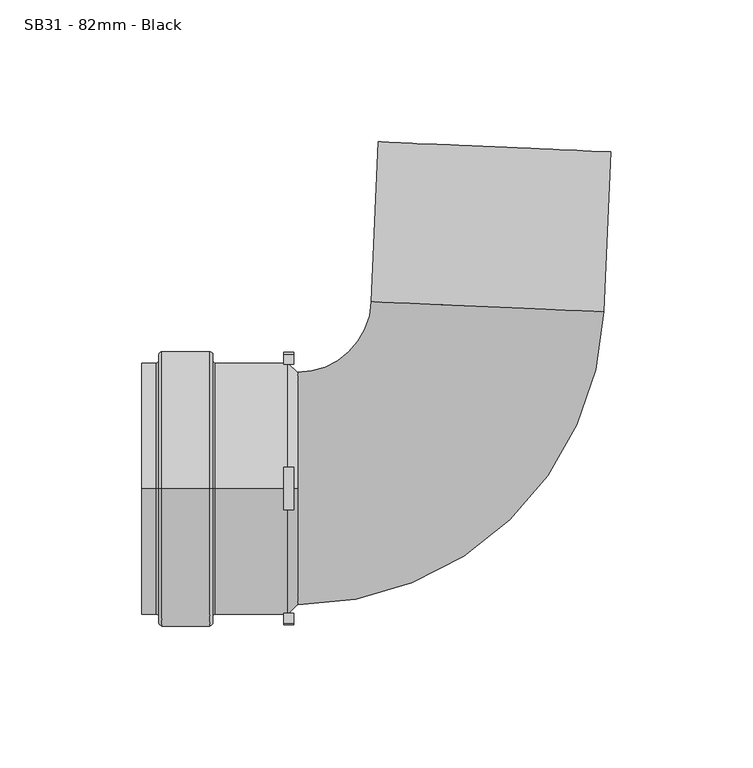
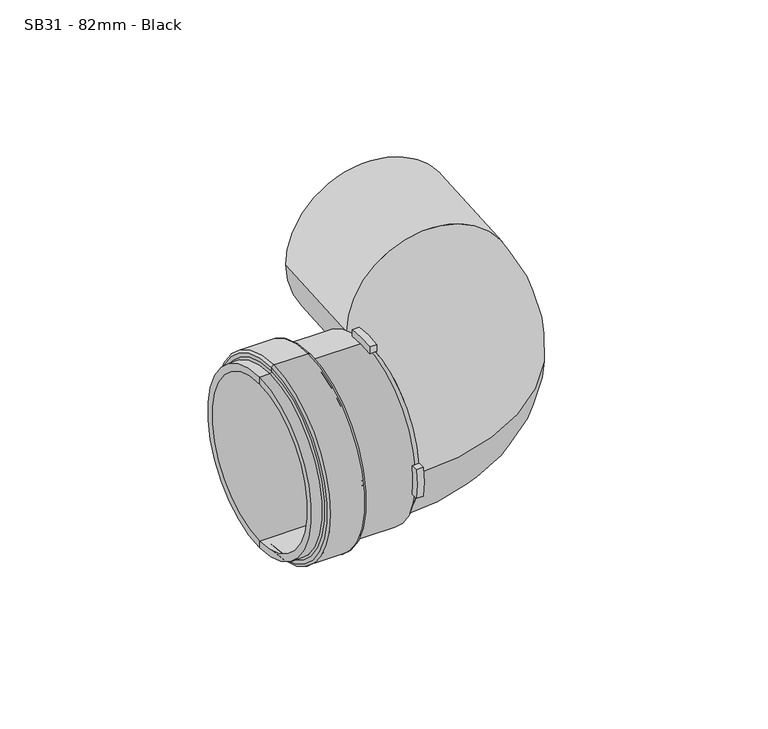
"""IFC4 building model written with IfcOpenShell, lengths in millimetres: pipe fitting geometry, MarleyPlumbingAndDrainage_PipeFitting_ShortRadiusBend87-5 : SB31 - 82mm - Black."""

import ifcopenshell
import ifcopenshell.guid

model = None  # the IFC model being written
_history = None  # IfcOwnerHistory: only IFC2X3 demands one
_inside = {}  # id of a spatial element -> (the spatial element, [elements in it])
_under = {}  # id of a project, library or spatial element -> (it, [spatial elements below it])
_declared = {}  # id of a project -> (the project, [libraries it declares])
_typed = {}  # id of a type object -> (the type object, [elements of that type])
_made_of = {}  # id of a material, layer set ... -> (it, [elements and type objects made of it])


def new_model(schema):
    """Start an empty IFC model of exactly this schema.

    Asked for "IFC4X3", IfcOpenShell would pick the latest addendum, in which some entities
    have other attributes; the version numbers below select the first issue.
    IFC2X3 requires an IfcOwnerHistory on every rooted entity: one is made here for all.
    """
    global model, _history
    if schema == "IFC4X3":
        model = ifcopenshell.file(schema_version=(4, 3, 0, 0))
    else:
        model = ifcopenshell.file(schema=schema)
    _inside.clear()
    _under.clear()
    _declared.clear()
    _typed.clear()
    _made_of.clear()
    _history = None
    if model.schema == "IFC2X3":
        org = make("IfcOrganization", Name="unknown")
        user = make(
            "IfcPersonAndOrganization",
            ThePerson=make("IfcPerson", FamilyName="unknown"),
            TheOrganization=org,
        )
        app = make(
            "IfcApplication",
            ApplicationDeveloper=org,
            Version="unknown",
            ApplicationFullName="unknown",
            ApplicationIdentifier="unknown",
        )
        _history = make(
            "IfcOwnerHistory",
            OwningUser=user,
            OwningApplication=app,
            ChangeAction="ADDED",
            CreationDate=0,
        )
    return model


def make(cls, **values):
    """One entity of the class cls with the attributes given. An attribute that is None is left unset."""
    return model.create_entity(
        cls, **{name: value for name, value in values.items() if value is not None}
    )


def rooted(cls, **values):
    """An entity with a GlobalId (a new one), such as an element, a storey or a relation."""
    return make(cls, GlobalId=ifcopenshell.guid.new(), OwnerHistory=_history, **values)


def si_unit(unit_type, name, prefix=None):
    """IfcSIUnit, for example si_unit("LENGTHUNIT", "METRE", prefix="MILLI")."""
    return make("IfcSIUnit", UnitType=unit_type, Prefix=prefix, Name=name)


def assignment(units):
    """IfcUnitAssignment: the units of a project."""
    return None if units is None else make("IfcUnitAssignment", Units=units)


def point(xyz):
    """IfcCartesianPoint."""
    return None if xyz is None else make("IfcCartesianPoint", Coordinates=xyz)


def direction(xyz):
    """IfcDirection."""
    return None if xyz is None else make("IfcDirection", DirectionRatios=xyz)


def frame(location, z_axis=None, x_axis=None):
    """IfcAxis2Placement3D, a coordinate frame: its origin and axes. An axis left out is left unset."""
    return make(
        "IfcAxis2Placement3D",
        Location=point(location),
        Axis=direction(z_axis),
        RefDirection=direction(x_axis),
    )


def frame_2d(location, x_axis=None):
    """IfcAxis2Placement2D, a coordinate frame in the plane: its origin and x axis."""
    return make(
        "IfcAxis2Placement2D", Location=point(location), RefDirection=direction(x_axis)
    )


def origin():
    """The frame at (0, 0, 0) with its axes left unset."""
    return frame((0.0, 0.0, 0.0))


def origin_2d():
    """The frame at (0, 0) in the plane with its x axis left unset."""
    return frame_2d((0.0, 0.0))


def place(relative_to, where):
    """IfcLocalPlacement: puts the frame where relative to a parent placement (None: the world)."""
    return make(
        "IfcLocalPlacement", PlacementRelTo=relative_to, RelativePlacement=where
    )


def context(
    kind, dimensions, precision=None, world=None, true_north=None, identifier=None
):
    """IfcGeometricRepresentationContext, for example the 3D "Model" context."""
    return make(
        "IfcGeometricRepresentationContext",
        ContextIdentifier=identifier,
        ContextType=kind,
        CoordinateSpaceDimension=dimensions,
        Precision=precision,
        WorldCoordinateSystem=world,
        TrueNorth=true_north,
    )


def project(units=None, contexts=None):
    """IfcProject with its units and contexts."""
    return rooted(
        "IfcProject",
        Name="project",
        RepresentationContexts=contexts,
        UnitsInContext=assignment(units),
    )


def spatial(cls, under=None, at=None, **own):
    """A site, building, storey or space (cls), placed at a placement, below another one or the project."""
    s = rooted(cls, ObjectPlacement=at, **own)
    if under is not None:
        _under.setdefault(under.id(), (under, []))[1].append(s)
    return s


def polyline(points):
    """IfcPolyline through the points."""
    return make("IfcPolyline", Points=[point(p) for p in points])


def circle_curve(where, radius):
    """IfcCircle in the frame where."""
    return make("IfcCircle", Position=where, Radius=radius)


def ellipse_curve(where, semi_axis1, semi_axis2):
    """IfcEllipse in the frame where."""
    return make(
        "IfcEllipse", Position=where, SemiAxis1=semi_axis1, SemiAxis2=semi_axis2
    )


def trimmed(basis, trim1, trim2, sense, master):
    """IfcTrimmedCurve: the piece of a basis curve between two trims."""
    return make(
        "IfcTrimmedCurve",
        BasisCurve=basis,
        Trim1=trim1,
        Trim2=trim2,
        SenseAgreement=sense,
        MasterRepresentation=master,
    )


def segment(curve, same_sense, transition):
    """IfcCompositeCurveSegment."""
    return make(
        "IfcCompositeCurveSegment",
        Transition=transition,
        SameSense=same_sense,
        ParentCurve=curve,
    )


def composite_curve(segments, self_intersect=None):
    """IfcCompositeCurve: segments joined end to end."""
    return make("IfcCompositeCurve", Segments=segments, SelfIntersect=self_intersect)


def outline(outer, holes=None, kind="AREA"):
    """IfcArbitraryClosedProfileDef: a profile drawn as a closed curve; with holes, ...WithVoids."""
    if holes is None:
        return make("IfcArbitraryClosedProfileDef", ProfileType=kind, OuterCurve=outer)
    return make(
        "IfcArbitraryProfileDefWithVoids",
        ProfileType=kind,
        OuterCurve=outer,
        InnerCurves=holes,
    )


def extrude(swept, where, along, depth):
    """IfcExtrudedAreaSolid: the profile swept, set in the frame where, extruded along a direction by depth."""
    return make(
        "IfcExtrudedAreaSolid",
        SweptArea=swept,
        Position=where,
        ExtrudedDirection=direction(along),
        Depth=depth,
    )


def shape(context_of_items, identifier, shape_type, items):
    """IfcShapeRepresentation: the items that make up one representation, for example the "Body"."""
    return make(
        "IfcShapeRepresentation",
        ContextOfItems=context_of_items,
        RepresentationIdentifier=identifier,
        RepresentationType=shape_type,
        Items=items,
    )


def source(mapping_origin, context_of_items, identifier, shape_type, items):
    """IfcRepresentationMap: a shape defined once, which mapped items show again and again."""
    return make(
        "IfcRepresentationMap",
        MappingOrigin=mapping_origin,
        MappedRepresentation=shape(context_of_items, identifier, shape_type, items),
    )


def transform(
    local_origin,
    x_axis=None,
    y_axis=None,
    z_axis=None,
    scale=None,
    scale2=None,
    scale3=None,
    uniform=True,
):
    """IfcCartesianTransformationOperator3D, or its non-uniform kind. x_axis, y_axis, z_axis: its Axis1, 2, 3."""
    if uniform:
        return make(
            "IfcCartesianTransformationOperator3D",
            Axis1=direction(x_axis),
            Axis2=direction(y_axis),
            LocalOrigin=point(local_origin),
            Scale=scale,
            Axis3=direction(z_axis),
        )
    return make(
        "IfcCartesianTransformationOperator3DnonUniform",
        Axis1=direction(x_axis),
        Axis2=direction(y_axis),
        LocalOrigin=point(local_origin),
        Scale=scale,
        Axis3=direction(z_axis),
        Scale2=scale2,
        Scale3=scale3,
    )


def mapped(mapping_source, mapping_target):
    """IfcMappedItem: shows the shape of a source again, moved by a transform."""
    return make(
        "IfcMappedItem", MappingSource=mapping_source, MappingTarget=mapping_target
    )


def made_of(thing, what):
    """Note that an element or type object is made of a material, layer set ...; save() writes the relation."""
    if what is not None:
        _made_of.setdefault(what.id(), (what, []))[1].append(thing)
    return thing


def element(
    cls,
    number,
    at=None,
    inside=None,
    cuts=None,
    type_object=None,
    material=None,
    context=None,
    identifier="Body",
    shape_type=None,
    held_by="IfcProductDefinitionShape",
    body=None,
    shapes=None,
    **own,
):
    """One element of the class cls, such as IfcWall. Its Tag is "e" and its number.

    at: its placement. inside: the storey or other place that contains it. cuts: it is an
    opening in that element (IfcRelVoidsElement). A single representation is given by context,
    identifier, shape_type and body (its items); several are given by shapes. held_by: the class
    of the entity that holds the representations. save() writes the other relations.
    """
    e = rooted(cls, Tag="e%d" % number, ObjectPlacement=at, **own)
    if body is not None:
        shapes = [shape(context, identifier, shape_type, body)]
    if shapes is not None:
        e.Representation = make(held_by, Representations=shapes)
    if inside is not None:
        _inside.setdefault(inside.id(), (inside, []))[1].append(e)
    if cuts is not None:
        rooted(
            "IfcRelVoidsElement", RelatingBuildingElement=cuts, RelatedOpeningElement=e
        )
    if type_object is not None:
        _typed.setdefault(type_object.id(), (type_object, []))[1].append(e)
    return made_of(e, material)


def aggregate(whole, parts):
    """IfcRelAggregates: a whole, such as a stair, and the parts it consists of."""
    return rooted("IfcRelAggregates", RelatingObject=whole, RelatedObjects=parts)


def save(model, path):
    """Write the relations noted so far, then the file.

    IfcRelAggregates (storeys below a building ...), IfcRelContainedInSpatialStructure (elements
    in a storey), IfcRelDefinesByType, IfcRelAssociatesMaterial and IfcRelDeclares: one each for
    every whole, place, type object, material and project.
    """
    for whole, parts in _under.values():
        aggregate(whole, parts)
    for where, things in _inside.values():
        rooted(
            "IfcRelContainedInSpatialStructure",
            RelatedElements=things,
            RelatingStructure=where,
        )
    for kind, things in _typed.values():
        rooted("IfcRelDefinesByType", RelatedObjects=things, RelatingType=kind)
    for what, things in _made_of.values():
        rooted("IfcRelAssociatesMaterial", RelatedObjects=things, RelatingMaterial=what)
    for by, libraries in _declared.values():
        rooted("IfcRelDeclares", RelatingContext=by, RelatedDefinitions=libraries)
    model.write(path)


def plane_surface(at):
    """IfcPlane: the flat surface through the origin of the frame at, square to its z axis."""
    return make("IfcPlane", Position=at)


def cylinder_surface(at, radius):
    """IfcCylindricalSurface: all points at the distance radius from the z axis of the frame at."""
    return make("IfcCylindricalSurface", Position=at, Radius=radius)


def revolved_surface(curve, axis_point, axis_direction):
    """IfcSurfaceOfRevolution: the curve turned about the line through axis_point along axis_direction."""
    return make(
        "IfcSurfaceOfRevolution",
        SweptCurve=make("IfcArbitraryOpenProfileDef", ProfileType="CURVE", Curve=curve),
        AxisPosition=make("IfcAxis1Placement", Location=point(axis_point), Axis=direction(axis_direction)),
    )


def advanced_brep(points, edges, surfaces, faces):
    """IfcAdvancedBrep: a solid bounded by faces that lie on surfaces and meet in shared edges.

    An edge is (start, end): straight between two places in points (the first is 0);
    or (start, end, curve); or (start, end, curve, False) where it runs against its curve.
    A face is (place in surfaces, loops), or (place, loops, False) where it looks against
    its surface's normal. A loop lists edges by number (the first is 1), with a minus sign
    where the edge is run from its end to its start. The first loop is the outer one.
    """
    corners = [point(p) for p in points]
    vertices = [make("IfcVertexPoint", VertexGeometry=c) for c in corners]
    made = []
    for start, end, *more in edges:
        made.append(
            make(
                "IfcEdgeCurve",
                EdgeStart=vertices[start],
                EdgeEnd=vertices[end],
                EdgeGeometry=more[0] if more else make("IfcPolyline", Points=[corners[start], corners[end]]),
                SameSense=more[1] if len(more) > 1 else True,
            )
        )
    hull = []
    for where, loops, *sense in faces:
        bounds = []
        for j, loop in enumerate(loops):
            ring = [make("IfcOrientedEdge", EdgeElement=made[abs(k) - 1], Orientation=k > 0) for k in loop]
            bounds.append(
                make(
                    "IfcFaceOuterBound" if j == 0 else "IfcFaceBound",
                    Bound=make("IfcEdgeLoop", EdgeList=ring),
                    Orientation=True,
                )
            )
        hull.append(make("IfcAdvancedFace", Bounds=bounds, FaceSurface=surfaces[where], SameSense=sense[0] if sense else True))
    return make("IfcAdvancedBrep", Outer=make("IfcClosedShell", CfsFaces=hull))


def sb31_82mm_black_072e4290(model_context):
    return source(origin(), model_context, "Body", "SolidModel", [
        extrude(outline(composite_curve([segment(trimmed(circle_curve(origin_2d(), 44.5), [point((-7.5, -43.8634244))], [point((7.5, -43.8634244))], True, "CARTESIAN"), True, "CONTINUOUS"), segment(polyline([(7.5, -43.8634244), (7.5, -47.4104419)]), True, "CONTINUOUS"), segment(trimmed(circle_curve(origin_2d(), 48.0), [point((7.5, -47.4104419))], [point((-7.5, -47.4104419))], False, "CARTESIAN"), True, "CONTINUOUS"), segment(polyline([(-7.5, -47.4104419), (-7.5, -43.8634244)]), True, "CONTINUOUS")], self_intersect=False)), frame((-83.9053348, 0.0, 0.0), z_axis=(1.0, 0.0, 0.0), x_axis=(0.0, 1.0, 0.0)), (0.0, 0.0, 1.0), 3.5),
        extrude(outline(composite_curve([segment(trimmed(circle_curve(origin_2d(), 44.5), [point((7.5, 43.8634244))], [point((-7.5, 43.8634244))], True, "CARTESIAN"), True, "CONTINUOUS"), segment(polyline([(-7.5, 43.8634244), (-7.5, 47.4104419)]), True, "CONTINUOUS"), segment(trimmed(circle_curve(origin_2d(), 48.0), [point((-7.5, 47.4104419))], [point((7.5, 47.4104419))], False, "CARTESIAN"), True, "CONTINUOUS"), segment(polyline([(7.5, 47.4104419), (7.5, 43.8634244)]), True, "CONTINUOUS")], self_intersect=False)), frame((-83.9053348, 0.0, 0.0), z_axis=(1.0, 0.0, 0.0), x_axis=(0.0, 1.0, 0.0)), (0.0, 0.0, 1.0), 3.5),
        extrude(outline(composite_curve([segment(trimmed(circle_curve(origin_2d(), 44.5), [point((-43.8634244, 7.5))], [point((-43.8634244, -7.5))], True, "CARTESIAN"), True, "CONTINUOUS"), segment(polyline([(-43.8634244, -7.5), (-47.4104419, -7.5)]), True, "CONTINUOUS"), segment(trimmed(circle_curve(origin_2d(), 48.0), [point((-47.4104419, -7.5))], [point((-47.4104419, 7.5))], False, "CARTESIAN"), True, "CONTINUOUS"), segment(polyline([(-47.4104419, 7.5), (-43.8634244, 7.5)]), True, "CONTINUOUS")], self_intersect=False)), frame((-83.9053348, 0.0, 0.0), z_axis=(1.0, 0.0, 0.0), x_axis=(0.0, 1.0, 0.0)), (0.0, 0.0, 1.0), 3.5),
        extrude(outline(composite_curve([segment(trimmed(circle_curve(origin_2d(), 44.5), [point((43.8634244, -7.5))], [point((43.8634244, 7.5))], True, "CARTESIAN"), True, "CONTINUOUS"), segment(polyline([(43.8634244, 7.5), (47.4104419, 7.5)]), True, "CONTINUOUS"), segment(trimmed(circle_curve(origin_2d(), 48.0), [point((47.4104419, 7.5))], [point((47.4104419, -7.5))], False, "CARTESIAN"), True, "CONTINUOUS"), segment(polyline([(47.4104419, -7.5), (43.8634244, -7.5)]), True, "CONTINUOUS")], self_intersect=False)), frame((-83.9053348, 0.0, 0.0), z_axis=(1.0, 0.0, 0.0), x_axis=(0.0, 1.0, 0.0)), (0.0, 0.0, 1.0), 3.5),
        advanced_brep(
        [(-133.9053348, 0.0, 44.5), (-133.9053348, 0.0, -44.5), (-128.9118319, 0.0, -44.5), (-128.9118319, 0.0, 44.5), (-133.9053348, 0.0, 41.0), (-133.9053348, 0.0, -41.0), (-82.4053348, 0.0, 41.0), (-82.4053348, 0.0, -41.0), (-82.4053348, 0.0, 0.0), (-82.4053348, 0.0, 44.5), (-82.4053348, 0.0, -44.5), (-78.9053348, 0.0, -41.0), (-78.9053348, 0.0, 41.0), (-107.9310832, 0.0, 44.5), (-107.9310832, 0.0, -44.5), (-108.9053348, 0.0, 45.4742516), (-108.9053348, 0.0, -45.4742516), (-108.9053348, 0.0, 47.5187521), (-108.9053348, 0.0, -47.5187521), (-109.8865827, 0.0, 48.5), (-109.8865827, 0.0, -48.5), (-126.8614035, 0.0, 48.5), (-126.8614035, 0.0, -48.5), (-127.9053348, 0.0, 47.4560687), (-127.9053348, 0.0, -47.4560687), (-127.9053348, 0.0, 45.5064971), (-127.9053348, 0.0, -45.5064971), (-78.9053348, 0.0, 0.0)],
        [
            (0, 1, circle_curve(frame((-133.9053348, 0.0, 0.0), z_axis=(1.0, 0.0, 0.0), x_axis=(0.0, 0.0, -1.0)), 44.5)),
            (1, 2),
            (2, 3, circle_curve(frame((-128.9118319, 0.0, 0.0), z_axis=(-1.0, 0.0, 0.0), x_axis=(0.0, 0.0, -1.0)), 44.5)),
            (3, 0),
            (1, 0, circle_curve(frame((-133.9053348, 0.0, 0.0), z_axis=(1.0, 0.0, 0.0), x_axis=(0.0, 0.0, -1.0)), 44.5)),
            (3, 2, circle_curve(frame((-128.9118319, 0.0, 0.0), z_axis=(-1.0, 0.0, 0.0), x_axis=(0.0, 0.0, -1.0)), 44.5)),
            (4, 5, circle_curve(frame((-133.9053348, 0.0, 0.0), z_axis=(1.0, 0.0, 0.0), x_axis=(0.0, 0.0, -1.0)), 41.0)),
            (5, 1),
            (0, 4),
            (5, 4, circle_curve(frame((-133.9053348, 0.0, 0.0), z_axis=(1.0, 0.0, 0.0), x_axis=(0.0, 0.0, -1.0)), 41.0)),
            (6, 7, circle_curve(frame((-82.4053348, 0.0, 0.0), z_axis=(1.0, 0.0, 0.0), x_axis=(0.0, 0.0, -1.0)), 41.0)),
            (7, 5),
            (4, 6),
            (7, 6, circle_curve(frame((-82.4053348, 0.0, 0.0), z_axis=(1.0, 0.0, 0.0), x_axis=(0.0, 0.0, -1.0)), 41.0)),
            (8, 7),
            (6, 8),
            (9, 10, circle_curve(frame((-82.4053348, 0.0, 0.0), z_axis=(1.0, 0.0, 0.0), x_axis=(0.0, 0.0, -1.0)), 44.5)),
            (10, 11),
            (11, 12, circle_curve(frame((-78.9053348, 0.0, 0.0), z_axis=(-1.0, 0.0, 0.0), x_axis=(0.0, 0.0, -1.0)), 41.0)),
            (12, 9),
            (10, 9, circle_curve(frame((-82.4053348, 0.0, 0.0), z_axis=(1.0, 0.0, 0.0), x_axis=(0.0, 0.0, -1.0)), 44.5)),
            (12, 11, circle_curve(frame((-78.9053348, 0.0, 0.0), z_axis=(-1.0, 0.0, 0.0), x_axis=(0.0, 0.0, -1.0)), 41.0)),
            (13, 14, circle_curve(frame((-107.9310832, 0.0, 0.0), z_axis=(1.0, 0.0, 0.0), x_axis=(0.0, 0.0, -1.0)), 44.5)),
            (14, 10),
            (9, 13),
            (14, 13, circle_curve(frame((-107.9310832, 0.0, 0.0), z_axis=(1.0, 0.0, 0.0), x_axis=(0.0, 0.0, -1.0)), 44.5)),
            (15, 16, circle_curve(frame((-108.9053348, 0.0, 0.0), z_axis=(1.0, 0.0, 0.0), x_axis=(0.0, 0.0, -1.0)), 45.4742516)),
            (16, 14, circle_curve(frame((-107.9310832, 0.0, -45.4742516), z_axis=(0.0, 1.0, 0.0), x_axis=(1.0, 0.0, 0.0)), 0.9742516)),
            (13, 15, circle_curve(frame((-107.9310832, 0.0, 45.4742516), z_axis=(0.0, 1.0, 0.0), x_axis=(1.0, 0.0, 0.0)), 0.9742516)),
            (16, 15, circle_curve(frame((-108.9053348, 0.0, 0.0), z_axis=(1.0, 0.0, 0.0), x_axis=(0.0, 0.0, -1.0)), 45.4742516)),
            (17, 18, circle_curve(frame((-108.9053348, 0.0, 0.0), z_axis=(1.0, 0.0, 0.0), x_axis=(0.0, 0.0, -1.0)), 47.5187521)),
            (18, 16),
            (15, 17),
            (18, 17, circle_curve(frame((-108.9053348, 0.0, 0.0), z_axis=(1.0, 0.0, 0.0), x_axis=(0.0, 0.0, -1.0)), 47.5187521)),
            (19, 20, circle_curve(frame((-109.8865827, 0.0, 0.0), z_axis=(1.0, 0.0, 0.0), x_axis=(0.0, 0.0, -1.0)), 48.5)),
            (20, 18, circle_curve(frame((-109.8865827, 0.0, -47.5187521), z_axis=(0.0, -1.0, 0.0), x_axis=(1.0, 0.0, 0.0)), 0.9812479)),
            (17, 19, circle_curve(frame((-109.8865827, 0.0, 47.5187521), z_axis=(0.0, -1.0, 0.0), x_axis=(1.0, 0.0, 0.0)), 0.9812479)),
            (20, 19, circle_curve(frame((-109.8865827, 0.0, 0.0), z_axis=(1.0, 0.0, 0.0), x_axis=(0.0, 0.0, -1.0)), 48.5)),
            (21, 22, circle_curve(frame((-126.8614035, 0.0, 0.0), z_axis=(1.0, 0.0, 0.0), x_axis=(0.0, 0.0, -1.0)), 48.5)),
            (22, 20),
            (19, 21),
            (22, 21, circle_curve(frame((-126.8614035, 0.0, 0.0), z_axis=(1.0, 0.0, 0.0), x_axis=(0.0, 0.0, -1.0)), 48.5)),
            (23, 24, circle_curve(frame((-127.9053348, 0.0, 0.0), z_axis=(1.0, 0.0, 0.0), x_axis=(0.0, 0.0, -1.0)), 47.4560687)),
            (24, 22, circle_curve(frame((-126.8614035, 0.0, -47.4560687), z_axis=(0.0, -1.0, 0.0), x_axis=(1.0, 0.0, 0.0)), 1.0439313)),
            (21, 23, circle_curve(frame((-126.8614035, 0.0, 47.4560687), z_axis=(0.0, -1.0, 0.0), x_axis=(1.0, 0.0, 0.0)), 1.0439313)),
            (24, 23, circle_curve(frame((-127.9053348, 0.0, 0.0), z_axis=(1.0, 0.0, 0.0), x_axis=(0.0, 0.0, -1.0)), 47.4560687)),
            (25, 26, circle_curve(frame((-127.9053348, 0.0, 0.0), z_axis=(1.0, 0.0, 0.0), x_axis=(0.0, 0.0, -1.0)), 45.5064971)),
            (26, 24),
            (23, 25),
            (26, 25, circle_curve(frame((-127.9053348, 0.0, 0.0), z_axis=(1.0, 0.0, 0.0), x_axis=(0.0, 0.0, -1.0)), 45.5064971)),
            (2, 26, circle_curve(frame((-128.9118319, 0.0, -45.5064971), z_axis=(0.0, 1.0, 0.0), x_axis=(1.0, 0.0, 0.0)), 1.0064971)),
            (25, 3, circle_curve(frame((-128.9118319, 0.0, 45.5064971), z_axis=(0.0, 1.0, 0.0), x_axis=(1.0, 0.0, 0.0)), 1.0064971)),
            (11, 27),
            (27, 12),
        ],
        [
            cylinder_surface(frame((-173.9053348, 0.0, 0.0), z_axis=(-1.0, 0.0, 0.0), x_axis=(0.0, 0.0, -1.0)), 44.5),
            plane_surface(frame((-133.9053348, 0.0, 0.0), z_axis=(-1.0, 0.0, 0.0), x_axis=(0.0, 0.0, -1.0))),
            revolved_surface(polyline([(-133.9053348, 0.0, -41.0), (-82.4053348, 0.0, -41.0)]), (-173.9053348, 0.0, 0.0), (-1.0, 0.0, 0.0)),
            plane_surface(frame((-82.4053348, 0.0, 0.0), z_axis=(-1.0, 0.0, 0.0), x_axis=(0.0, 0.0, -1.0))),
            revolved_surface(polyline([(-78.9053348, 0.0, -41.0), (-82.4053348, 0.0, -44.5)]), (-173.9053348, 0.0, 0.0), (-1.0, 0.0, 0.0)),
            revolved_surface(trimmed(ellipse_curve(frame((-107.9310832, 0.0, -45.4742516), z_axis=(0.0, -1.0, 0.0), x_axis=(1.0, 0.0, 0.0)), 0.9742516, 0.9742516), [point((-107.9310832, 0.0, -44.5))], [point((-108.9053348, 0.0, -45.4742516))], True, "CARTESIAN"), (-173.9053348, 0.0, 0.0), (-1.0, 0.0, 0.0)),
            plane_surface(frame((-108.9053348, 0.0, 0.0), z_axis=(1.0, 0.0, 0.0), x_axis=(0.0, 0.0, -1.0))),
            revolved_surface(trimmed(ellipse_curve(frame((-109.8865827, 0.0, -47.5187521), z_axis=(0.0, 1.0, 0.0), x_axis=(1.0, 0.0, 0.0)), 0.9812479, 0.9812479), [point((-108.9053348, 0.0, -47.5187521))], [point((-109.8865827, 0.0, -48.5))], True, "CARTESIAN"), (-173.9053348, 0.0, 0.0), (-1.0, 0.0, 0.0)),
            cylinder_surface(frame((-173.9053348, 0.0, 0.0), z_axis=(-1.0, 0.0, 0.0), x_axis=(0.0, 0.0, -1.0)), 48.5),
            revolved_surface(trimmed(ellipse_curve(frame((-126.8614035, 0.0, -47.4560687), z_axis=(0.0, 1.0, 0.0), x_axis=(1.0, 0.0, 0.0)), 1.0439313, 1.0439313), [point((-126.8614035, 0.0, -48.5))], [point((-127.9053348, 0.0, -47.4560687))], True, "CARTESIAN"), (-173.9053348, 0.0, 0.0), (-1.0, 0.0, 0.0)),
            plane_surface(frame((-127.9053348, 0.0, 0.0), z_axis=(-1.0, 0.0, 0.0), x_axis=(0.0, 0.0, -1.0))),
            revolved_surface(trimmed(ellipse_curve(frame((-128.9118319, 0.0, -45.5064971), z_axis=(0.0, -1.0, 0.0), x_axis=(1.0, 0.0, 0.0)), 1.0064971, 1.0064971), [point((-127.9053348, 0.0, -45.5064971))], [point((-128.9118319, 0.0, -44.5))], True, "CARTESIAN"), (-173.9053348, 0.0, 0.0), (-1.0, 0.0, 0.0)),
            plane_surface(frame((-78.9053348, 0.0, 0.0), z_axis=(1.0, 0.0, 0.0), x_axis=(0.0, 0.0, -1.0))),
        ],
        [
            (0, [[1, 2, 3, 4]]),
            (0, [[5, -4, 6, -2]]),
            (1, [[7, 8, -1, 9]]),
            (1, [[10, -9, -5, -8]]),
            (2, [[11, 12, -7, 13]]),
            (2, [[14, -13, -10, -12]]),
            (3, [[15, -11, 16]]),
            (3, [[-16, -14, -15]]),
            (4, [[17, 18, 19, 20]]),
            (4, [[21, -20, 22, -18]]),
            (0, [[23, 24, -17, 25]]),
            (0, [[26, -25, -21, -24]]),
            (5, [[27, 28, -23, 29]]),
            (5, [[30, -29, -26, -28]]),
            (6, [[31, 32, -27, 33]]),
            (6, [[34, -33, -30, -32]]),
            (7, [[35, 36, -31, 37]]),
            (7, [[38, -37, -34, -36]]),
            (8, [[39, 40, -35, 41]]),
            (8, [[42, -41, -38, -40]]),
            (9, [[43, 44, -39, 45]]),
            (9, [[46, -45, -42, -44]]),
            (10, [[47, 48, -43, 49]]),
            (10, [[50, -49, -46, -48]]),
            (11, [[-3, 51, -47, 52]]),
            (11, [[-6, -52, -50, -51]]),
            (12, [[-19, 53, 54]]),
            (12, [[-22, -54, -53]]),
        ],
    ),
        advanced_brep(
        [(-78.9053348, -41.0, 0.0), (-78.9053348, 41.0, 0.0), (-52.930081, 65.8658959, 0.0), (28.9918731, 62.2891062, 0.0), (31.4540229, 118.6816064, 0.0), (-50.4679313, 122.2583961, 0.0)],
        [
            (0, 1, circle_curve(frame((-78.9053348, 0.0, 0.0), z_axis=(-1.0, 0.0, 0.0), x_axis=(0.0, 1.0, 0.0)), 41.0)),
            (1, 0, circle_curve(frame((-78.9053348, 0.0, 0.0), z_axis=(-1.0, 0.0, 0.0), x_axis=(0.0, 1.0, 0.0)), 41.0)),
            (2, 1, circle_curve(frame((-78.9053348, 67.0, 0.0), z_axis=(0.0, 0.0, -1.0), x_axis=(0.0, -1.0, 0.0)), 26.0)),
            (0, 3, circle_curve(frame((-78.9053348, 67.0, 0.0), z_axis=(0.0, 0.0, 1.0), x_axis=(0.0, -1.0, 0.0)), 108.0)),
            (3, 2, circle_curve(frame((-11.969104, 64.077501, 0.0), z_axis=(-0.043619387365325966, -0.9990482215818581, 0.0), x_axis=(-0.9990482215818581, 0.043619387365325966, 0.0)), 41.0)),
            (2, 3, circle_curve(frame((-11.969104, 64.077501, 0.0), z_axis=(-0.04361938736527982, -0.9990482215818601, 0.0), x_axis=(-0.9990482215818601, 0.04361938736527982, 0.0)), 41.0)),
            (4, 5, circle_curve(frame((-9.5069542, 120.4700013, 0.0), z_axis=(0.04361938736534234, 0.9990482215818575, 0.0), x_axis=(-0.9990482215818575, 0.04361938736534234, 0.0)), 41.0)),
            (5, 4, circle_curve(frame((-9.5069542, 120.4700013, 0.0), z_axis=(0.04361938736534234, 0.9990482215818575, 0.0), x_axis=(-0.9990482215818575, 0.04361938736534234, 0.0)), 41.0)),
            (3, 4),
            (5, 2),
        ],
        [
            plane_surface(frame((-78.9053348, 0.0, 0.0), z_axis=(-1.0, 0.0, 0.0), x_axis=(0.0, 0.0, 1.0))),
            revolved_surface(trimmed(ellipse_curve(frame((-78.9053348, 0.0, 0.0), z_axis=(-1.0, 0.0, 0.0), x_axis=(0.0, 1.0, 0.0)), 41.0, 41.0), [point((-78.9053348, -41.0, 0.0))], [point((-78.9053348, 41.0, 0.0))], True, "CARTESIAN"), (-78.9053348, 67.0, 0.0), (0.0, 0.0, 1.0)),
            revolved_surface(trimmed(ellipse_curve(frame((-78.9053348, 0.0, 0.0), z_axis=(-1.0, 0.0, 0.0), x_axis=(0.0, 1.0, 0.0)), 41.0, 41.0), [point((-78.9053348, 41.0, 0.0))], [point((-78.9053348, -41.0, 0.0))], True, "CARTESIAN"), (-78.9053348, 67.0, 0.0), (0.0, 0.0, 1.0)),
            plane_surface(frame((-9.5069542, 120.4700013, 0.0), z_axis=(0.04361938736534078, 0.9990482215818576, 0.0), x_axis=(0.0, 0.0, 1.0))),
            cylinder_surface(frame((-11.969104, 64.077501, 0.0), z_axis=(-0.04361938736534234, -0.9990482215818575, 0.0), x_axis=(-0.9990482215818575, 0.04361938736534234, 0.0)), 41.0),
        ],
        [
            (0, [[1, 2]]),
            (1, [[3, -1, 4, 5]]),
            (2, [[-4, -2, -3, 6]]),
            (3, [[7, 8]]),
            (4, [[-5, 9, -8, 10]]),
            (4, [[-6, -10, -7, -9]]),
        ],
    ),
    ])


if __name__ == "__main__":
    model = new_model("IFC4")
    model_context = context("Model", 3, world=origin())
    ifc_project = project(units=[si_unit("LENGTHUNIT", "METRE", prefix="MILLI")], contexts=[model_context])
    site = spatial("IfcSite", under=ifc_project)
    building = spatial("IfcBuilding", under=site)
    placement = place(None, origin())
    sb31_82mm_black_shape = sb31_82mm_black_072e4290(model_context)
    element("IfcPipeFitting", 1, ObjectType="MarleyPlumbingAndDrainage_PipeFitting_ShortRadiusBend87-5 : SB31 - 82mm - Black", at=placement, inside=building, context=model_context, shape_type="MappedRepresentation", body=[
        mapped(sb31_82mm_black_shape, transform((0.0, 0.0, 0.0), x_axis=(1.0, 0.0, 0.0), y_axis=(0.0, 1.0, 0.0), z_axis=(0.0, 0.0, 1.0))),
    ])
    save(model, "model.ifc")
